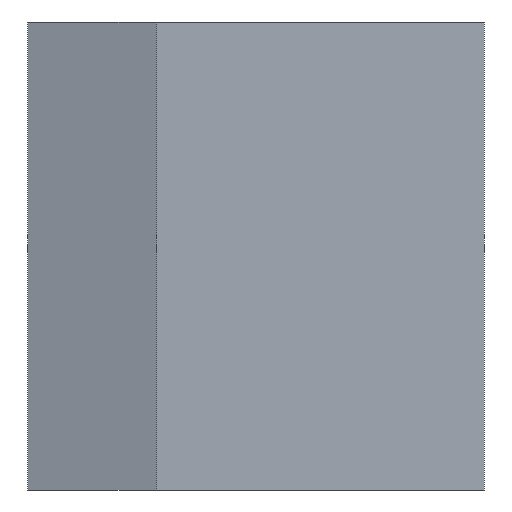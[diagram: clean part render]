
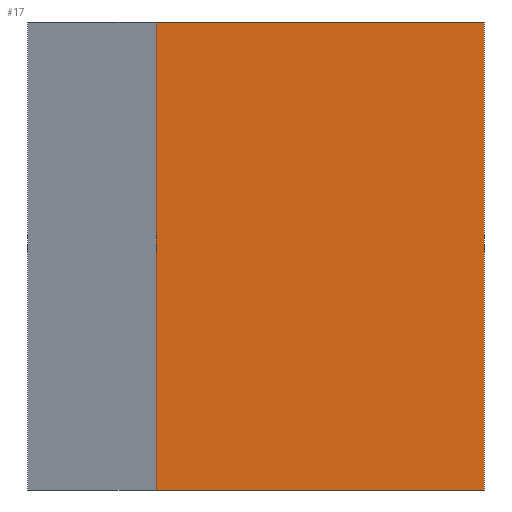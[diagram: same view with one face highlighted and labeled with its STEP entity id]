
A CAD part, front view. The second image highlights one B-rep face of the part: STEP entity #17.
In plain terms, the highlighted planar face has unit normal (0, -1, 0).
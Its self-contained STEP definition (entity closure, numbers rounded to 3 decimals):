
#17 = ADVANCED_FACE('',(#18),#32,.T.);
#18 = FACE_BOUND('',#19,.T.);
#19 = EDGE_LOOP('',(#20,#55,#83,#111));
#20 = ORIENTED_EDGE('',*,*,#21,.T.);
#21 = EDGE_CURVE('',#22,#24,#26,.T.);
#22 = VERTEX_POINT('',#23);
#23 = CARTESIAN_POINT('',(17.,-88.,-31.6));
#24 = VERTEX_POINT('',#25);
#25 = CARTESIAN_POINT('',(17.,-88.,-23.4));
#26 = SURFACE_CURVE('',#27,(#31,#43),.PCURVE_S1.);
#27 = LINE('',#28,#29);
#28 = CARTESIAN_POINT('',(17.,-88.,-31.6));
#29 = VECTOR('',#30,1.);
#30 = DIRECTION('',(0.,0.,1.));
#31 = PCURVE('',#32,#37);
#32 = PLANE('',#33);
#33 = AXIS2_PLACEMENT_3D('',#34,#35,#36);
#34 = CARTESIAN_POINT('',(17.,-88.,-31.6));
#35 = DIRECTION('',(0.,-1.,0.));
#36 = DIRECTION('',(-1.,0.,0.));
#37 = DEFINITIONAL_REPRESENTATION('',(#38),#42);
#38 = LINE('',#39,#40);
#39 = CARTESIAN_POINT('',(0.,0.));
#40 = VECTOR('',#41,1.);
#41 = DIRECTION('',(0.,-1.));
#42 = ( GEOMETRIC_REPRESENTATION_CONTEXT(2) 
PARAMETRIC_REPRESENTATION_CONTEXT() REPRESENTATION_CONTEXT('2D SPACE',''
  ) );
#43 = PCURVE('',#44,#49);
#44 = PLANE('',#45);
#45 = AXIS2_PLACEMENT_3D('',#46,#47,#48);
#46 = CARTESIAN_POINT('',(17.,8.,-31.6));
#47 = DIRECTION('',(1.,0.,0.));
#48 = DIRECTION('',(0.,-1.,0.));
#49 = DEFINITIONAL_REPRESENTATION('',(#50),#54);
#50 = LINE('',#51,#52);
#51 = CARTESIAN_POINT('',(96.,0.));
#52 = VECTOR('',#53,1.);
#53 = DIRECTION('',(0.,-1.));
#54 = ( GEOMETRIC_REPRESENTATION_CONTEXT(2) 
PARAMETRIC_REPRESENTATION_CONTEXT() REPRESENTATION_CONTEXT('2D SPACE',''
  ) );
#55 = ORIENTED_EDGE('',*,*,#56,.T.);
#56 = EDGE_CURVE('',#24,#57,#59,.T.);
#57 = VERTEX_POINT('',#58);
#58 = CARTESIAN_POINT('',(11.25,-88.,-23.4));
#59 = SURFACE_CURVE('',#60,(#64,#71),.PCURVE_S1.);
#60 = LINE('',#61,#62);
#61 = CARTESIAN_POINT('',(17.,-88.,-23.4));
#62 = VECTOR('',#63,1.);
#63 = DIRECTION('',(-1.,0.,0.));
#64 = PCURVE('',#32,#65);
#65 = DEFINITIONAL_REPRESENTATION('',(#66),#70);
#66 = LINE('',#67,#68);
#67 = CARTESIAN_POINT('',(0.,-8.2));
#68 = VECTOR('',#69,1.);
#69 = DIRECTION('',(1.,0.));
#70 = ( GEOMETRIC_REPRESENTATION_CONTEXT(2) 
PARAMETRIC_REPRESENTATION_CONTEXT() REPRESENTATION_CONTEXT('2D SPACE',''
  ) );
#71 = PCURVE('',#72,#77);
#72 = PLANE('',#73);
#73 = AXIS2_PLACEMENT_3D('',#74,#75,#76);
#74 = CARTESIAN_POINT('',(12.48,-40.278,-23.4));
#75 = DIRECTION('',(0.,-0.,-1.));
#76 = DIRECTION('',(0.,-1.,0.));
#77 = DEFINITIONAL_REPRESENTATION('',(#78),#82);
#78 = LINE('',#79,#80);
#79 = CARTESIAN_POINT('',(47.722,-4.52));
#80 = VECTOR('',#81,1.);
#81 = DIRECTION('',(0.,1.));
#82 = ( GEOMETRIC_REPRESENTATION_CONTEXT(2) 
PARAMETRIC_REPRESENTATION_CONTEXT() REPRESENTATION_CONTEXT('2D SPACE',''
  ) );
#83 = ORIENTED_EDGE('',*,*,#84,.F.);
#84 = EDGE_CURVE('',#85,#57,#87,.T.);
#85 = VERTEX_POINT('',#86);
#86 = CARTESIAN_POINT('',(11.25,-88.,-31.6));
#87 = SURFACE_CURVE('',#88,(#92,#99),.PCURVE_S1.);
#88 = LINE('',#89,#90);
#89 = CARTESIAN_POINT('',(11.25,-88.,-31.6));
#90 = VECTOR('',#91,1.);
#91 = DIRECTION('',(0.,0.,1.));
#92 = PCURVE('',#32,#93);
#93 = DEFINITIONAL_REPRESENTATION('',(#94),#98);
#94 = LINE('',#95,#96);
#95 = CARTESIAN_POINT('',(5.75,0.));
#96 = VECTOR('',#97,1.);
#97 = DIRECTION('',(0.,-1.));
#98 = ( GEOMETRIC_REPRESENTATION_CONTEXT(2) 
PARAMETRIC_REPRESENTATION_CONTEXT() REPRESENTATION_CONTEXT('2D SPACE',''
  ) );
#99 = PCURVE('',#100,#105);
#100 = PLANE('',#101);
#101 = AXIS2_PLACEMENT_3D('',#102,#103,#104);
#102 = CARTESIAN_POINT('',(11.25,-88.,-31.6));
#103 = DIRECTION('',(-1.,0.,0.));
#104 = DIRECTION('',(0.,1.,0.));
#105 = DEFINITIONAL_REPRESENTATION('',(#106),#110);
#106 = LINE('',#107,#108);
#107 = CARTESIAN_POINT('',(0.,0.));
#108 = VECTOR('',#109,1.);
#109 = DIRECTION('',(0.,-1.));
#110 = ( GEOMETRIC_REPRESENTATION_CONTEXT(2) 
PARAMETRIC_REPRESENTATION_CONTEXT() REPRESENTATION_CONTEXT('2D SPACE',''
  ) );
#111 = ORIENTED_EDGE('',*,*,#112,.F.);
#112 = EDGE_CURVE('',#22,#85,#113,.T.);
#113 = SURFACE_CURVE('',#114,(#118,#125),.PCURVE_S1.);
#114 = LINE('',#115,#116);
#115 = CARTESIAN_POINT('',(17.,-88.,-31.6));
#116 = VECTOR('',#117,1.);
#117 = DIRECTION('',(-1.,0.,0.));
#118 = PCURVE('',#32,#119);
#119 = DEFINITIONAL_REPRESENTATION('',(#120),#124);
#120 = LINE('',#121,#122);
#121 = CARTESIAN_POINT('',(0.,0.));
#122 = VECTOR('',#123,1.);
#123 = DIRECTION('',(1.,0.));
#124 = ( GEOMETRIC_REPRESENTATION_CONTEXT(2) 
PARAMETRIC_REPRESENTATION_CONTEXT() REPRESENTATION_CONTEXT('2D SPACE',''
  ) );
#125 = PCURVE('',#126,#131);
#126 = PLANE('',#127);
#127 = AXIS2_PLACEMENT_3D('',#128,#129,#130);
#128 = CARTESIAN_POINT('',(12.48,-40.278,-31.6));
#129 = DIRECTION('',(0.,-0.,-1.));
#130 = DIRECTION('',(0.,-1.,0.));
#131 = DEFINITIONAL_REPRESENTATION('',(#132),#136);
#132 = LINE('',#133,#134);
#133 = CARTESIAN_POINT('',(47.722,-4.52));
#134 = VECTOR('',#135,1.);
#135 = DIRECTION('',(0.,1.));
#136 = ( GEOMETRIC_REPRESENTATION_CONTEXT(2) 
PARAMETRIC_REPRESENTATION_CONTEXT() REPRESENTATION_CONTEXT('2D SPACE',''
  ) );
